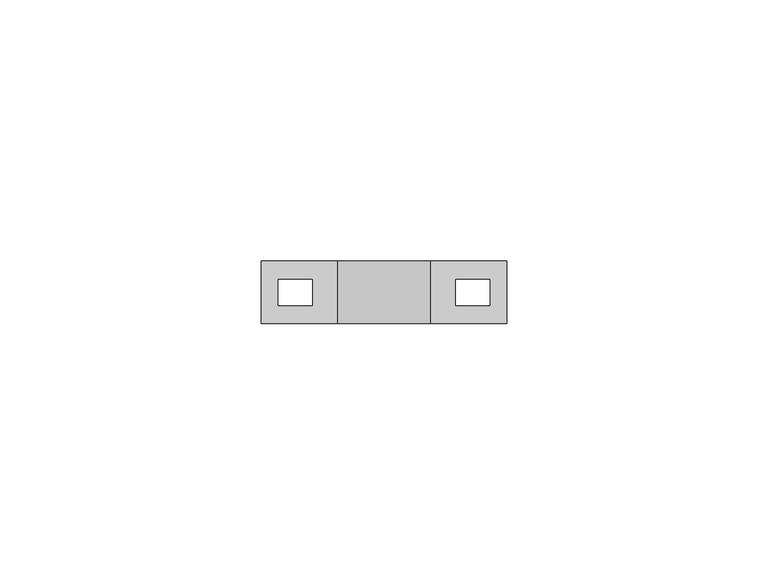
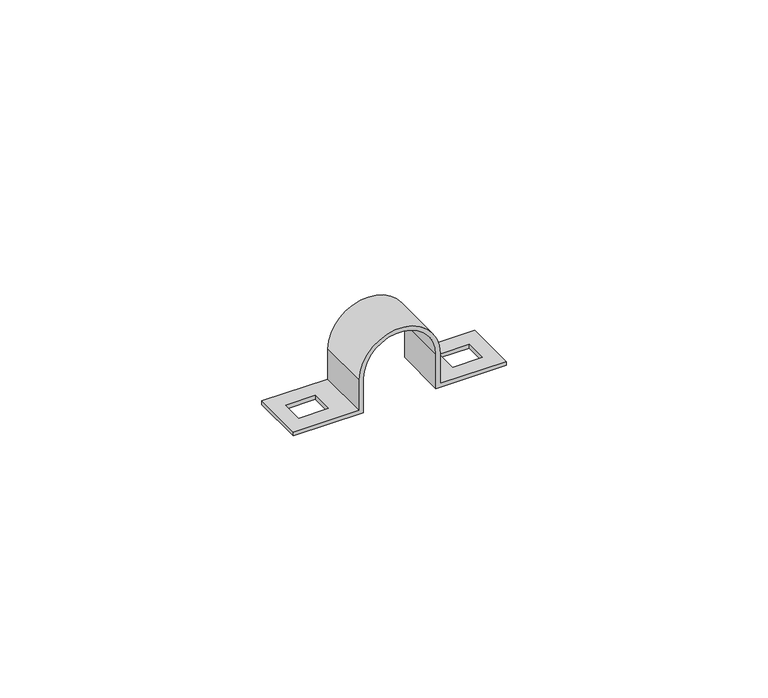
"""IFC4 building model written with IfcOpenShell, lengths in millimetres: cable carrier fitting geometry."""

from ifc_helpers import new_model, si_unit, frame, origin, place, context, project, spatial, polyline, circle_curve, source, transform, mapped, element, save
from ifc_brep_helpers import plane_surface, cylinder_surface, revolved_surface, advanced_brep


def cable_carrier_fitting_02279886(model_context):
    return source(origin(), model_context, "Body", "AdvancedBrep", [
        advanced_brep(
        [(23.5, -6.0, 0.0), (23.5, -6.0, 0.9), (8.9, -6.0, 0.9), (8.9, -6.0, 8.0), (-8.9, -6.0, 8.0), (-8.9, -6.0, 0.9), (-23.5, -6.0, 0.9), (-23.5, -6.0, 0.0), (-8.0, -6.0, 0.0), (-8.0, -6.0, 8.0), (8.0, -6.0, 8.0), (8.0, -6.0, 0.0), (23.5, 6.0, 0.0), (8.0, 6.0, 0.0), (8.0, 6.0, 8.0), (-8.0, 6.0, 8.0), (-8.0, 6.0, 0.0), (-23.5, 6.0, 0.0), (-23.5, 6.0, 0.9), (-8.9, 6.0, 0.9), (-8.9, 6.0, 8.0), (8.9, 6.0, 8.0), (8.9, 6.0, 0.9), (23.5, 6.0, 0.9), (20.25, -2.5, 0.9), (13.75, -2.5, 0.9), (13.75, 2.5, 0.9), (20.25, 2.5, 0.9), (-20.25, 2.5, 0.9), (-13.75, 2.5, 0.9), (-13.75, -2.5, 0.9), (-20.25, -2.5, 0.9), (-13.75, 2.5, 0.0), (-20.25, 2.5, 0.0), (-20.25, -2.5, 0.0), (-13.75, -2.5, 0.0), (13.75, -2.5, 0.0), (20.25, -2.5, 0.0), (20.25, 2.5, 0.0), (13.75, 2.5, 0.0)],
        [
            (0, 1),
            (1, 2),
            (2, 3),
            (3, 4, circle_curve(frame((0.0, -6.0, 8.0), z_axis=(0.0, -1.0, 0.0), x_axis=(1.0, 0.0, 0.0)), 8.9)),
            (4, 5),
            (5, 6),
            (6, 7),
            (7, 8),
            (8, 9),
            (9, 10, circle_curve(frame((0.0, -6.0, 8.0), z_axis=(0.0, 1.0, 0.0), x_axis=(1.0, 0.0, 0.0)), 8.0)),
            (10, 11),
            (11, 0),
            (12, 13),
            (13, 14),
            (14, 15, circle_curve(frame((0.0, 6.0, 8.0), z_axis=(0.0, -1.0, 0.0), x_axis=(1.0, 0.0, 0.0)), 8.0)),
            (15, 16),
            (16, 17),
            (17, 18),
            (18, 19),
            (19, 20),
            (20, 21, circle_curve(frame((0.0, 6.0, 8.0), z_axis=(0.0, 1.0, 0.0), x_axis=(1.0, 0.0, 0.0)), 8.9)),
            (21, 22),
            (22, 23),
            (23, 12),
            (0, 12),
            (23, 1),
            (22, 2),
            (24, 25),
            (25, 26),
            (26, 27),
            (27, 24),
            (21, 3),
            (20, 4),
            (19, 5),
            (18, 6),
            (28, 29),
            (29, 30),
            (30, 31),
            (31, 28),
            (17, 7),
            (16, 8),
            (32, 33),
            (33, 34),
            (34, 35),
            (35, 32),
            (15, 9),
            (14, 10),
            (13, 11),
            (36, 37),
            (37, 38),
            (38, 39),
            (39, 36),
            (32, 29),
            (28, 33),
            (31, 34),
            (30, 35),
            (36, 25),
            (24, 37),
            (27, 38),
            (26, 39),
        ],
        [
            plane_surface(frame((23.5, -6.0, 0.9), z_axis=(0.0, -1.0, 0.0), x_axis=(0.0, 0.0, 1.0))),
            plane_surface(frame((23.5, 6.0, 0.9), z_axis=(0.0, 1.0, 0.0), x_axis=(0.0, 0.0, -1.0))),
            plane_surface(frame((23.5, -6.0, 0.0), z_axis=(1.0, 0.0, 0.0), x_axis=(0.0, 1.0, 0.0))),
            plane_surface(frame((23.5, -6.0, 0.9), z_axis=(0.0, 0.0, 1.0), x_axis=(0.0, 1.0, 0.0))),
            plane_surface(frame((8.9, -6.0, 0.9), z_axis=(1.0, 0.0, 0.0), x_axis=(0.0, 1.0, 0.0))),
            cylinder_surface(frame((0.0, 6.0, 8.0), z_axis=(0.0, -1.0, 0.0), x_axis=(1.0, 0.0, 0.0)), 8.9),
            plane_surface(frame((-8.9, -6.0, 8.0), z_axis=(-1.0, 0.0, 0.0), x_axis=(0.0, 1.0, 0.0))),
            plane_surface(frame((-8.9, -6.0, 0.9), z_axis=(0.0, 0.0, 1.0), x_axis=(0.0, 1.0, 0.0))),
            plane_surface(frame((-23.5, -6.0, 0.9), z_axis=(-1.0, 0.0, 0.0), x_axis=(0.0, 1.0, 0.0))),
            plane_surface(frame((-23.5, -6.0, 0.0), z_axis=(0.0, 0.0, -1.0), x_axis=(0.0, 1.0, 0.0))),
            plane_surface(frame((-8.0, -6.0, 0.0), z_axis=(1.0, 0.0, 0.0), x_axis=(0.0, 1.0, 0.0))),
            revolved_surface(polyline([(8.0, 6.0, 8.0), (8.0, -6.0, 8.0)]), (0.0, 6.0, 8.0), (0.0, 1.0, 0.0)),
            plane_surface(frame((8.0, -6.0, 8.0), z_axis=(-1.0, 0.0, 0.0), x_axis=(0.0, 1.0, 0.0))),
            plane_surface(frame((8.0, -6.0, 0.0), z_axis=(0.0, 0.0, -1.0), x_axis=(0.0, 1.0, 0.0))),
            plane_surface(frame((-13.75, 2.5, 21.959409), z_axis=(0.0, -1.0, 0.0), x_axis=(0.0, 0.0, -1.0))),
            plane_surface(frame((-20.25, 2.5, 21.959409), z_axis=(1.0, 0.0, 0.0), x_axis=(0.0, 0.0, -1.0))),
            plane_surface(frame((-20.25, -2.5, 21.959409), z_axis=(0.0, 1.0, 0.0), x_axis=(0.0, 0.0, -1.0))),
            plane_surface(frame((-13.75, -2.5, 21.959409), z_axis=(-1.0, 0.0, 0.0), x_axis=(0.0, 0.0, -1.0))),
            plane_surface(frame((13.75, -2.5, 21.959409), z_axis=(0.0, 1.0, 0.0), x_axis=(0.0, 0.0, -1.0))),
            plane_surface(frame((20.25, -2.5, 21.959409), z_axis=(-1.0, 0.0, 0.0), x_axis=(0.0, 0.0, -1.0))),
            plane_surface(frame((20.25, 2.5, 21.959409), z_axis=(0.0, -1.0, 0.0), x_axis=(0.0, 0.0, -1.0))),
            plane_surface(frame((13.75, 2.5, 21.959409), z_axis=(1.0, 0.0, 0.0), x_axis=(0.0, 0.0, -1.0))),
        ],
        [
            (0, [[1, 2, 3, 4, 5, 6, 7, 8, 9, 10, 11, 12]]),
            (1, [[13, 14, 15, 16, 17, 18, 19, 20, 21, 22, 23, 24]]),
            (2, [[-1, 25, -24, 26]]),
            (3, [[-2, -26, -23, 27], [28, 29, 30, 31]]),
            (4, [[-3, -27, -22, 32]]),
            (5, [[-4, -32, -21, 33]]),
            (6, [[-5, -33, -20, 34]]),
            (7, [[-6, -34, -19, 35], [36, 37, 38, 39]]),
            (8, [[-7, -35, -18, 40]]),
            (9, [[-8, -40, -17, 41], [42, 43, 44, 45]]),
            (10, [[-9, -41, -16, 46]]),
            (11, [[-10, -46, -15, 47]]),
            (12, [[-11, -47, -14, 48]]),
            (13, [[-12, -48, -13, -25], [49, 50, 51, 52]]),
            (14, [[53, -36, 54, -42]]),
            (15, [[-54, -39, 55, -43]]),
            (16, [[-55, -38, 56, -44]]),
            (17, [[-53, -45, -56, -37]]),
            (18, [[57, -28, 58, -49]]),
            (19, [[-58, -31, 59, -50]]),
            (20, [[-59, -30, 60, -51]]),
            (21, [[-57, -52, -60, -29]]),
        ],
    ),
    ])


if __name__ == "__main__":
    model = new_model("IFC4")
    model_context = context("Model", 3, world=origin())
    ifc_project = project(units=[si_unit("LENGTHUNIT", "METRE", prefix="MILLI")], contexts=[model_context])
    site = spatial("IfcSite", under=ifc_project)
    building = spatial("IfcBuilding", under=site)
    placement = place(None, origin())
    cable_carrier_fitting_shape = cable_carrier_fitting_02279886(model_context)
    element("IfcCableCarrierFitting", 1, at=placement, inside=building, context=model_context, shape_type="MappedRepresentation", body=[
        mapped(cable_carrier_fitting_shape, transform((0.0, 0.0, 0.0), x_axis=(1.0, 0.0, 0.0), y_axis=(0.0, 1.0, 0.0), z_axis=(0.0, 0.0, 1.0))),
    ])
    save(model, "model.ifc")
